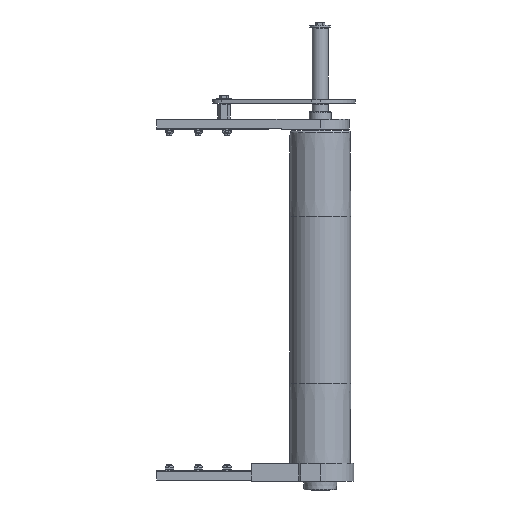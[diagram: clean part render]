
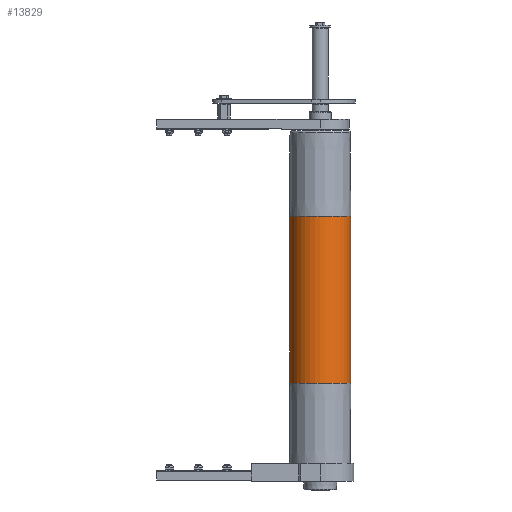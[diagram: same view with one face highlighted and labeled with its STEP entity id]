
A CAD part, front view. The second image highlights one B-rep face of the part: STEP entity #13829.
In plain terms, the highlighted cylindrical face has radius 47.5 mm (diameter 95 mm), a partial arc.
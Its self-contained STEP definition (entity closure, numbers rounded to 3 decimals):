
#1937 = DIRECTION ( 'NONE',  ( -1., 0., 0. ) ) ;
#2110 = DIRECTION ( 'NONE',  ( -1., 0., 0. ) ) ;
#4895 = ORIENTED_EDGE ( 'NONE', *, *, #28679, .F. ) ;
#6106 = EDGE_CURVE ( 'NONE', #13837, #14048, #7836, .T. ) ;
#6162 = EDGE_CURVE ( 'NONE', #13837, #29458, #15141, .T. ) ;
#6463 = CARTESIAN_POINT ( 'NONE',  ( 260., 0., 0. ) ) ;
#6680 = DIRECTION ( 'NONE',  ( 0., 0., 1. ) ) ;
#7836 = CIRCLE ( 'NONE', #25970, 47.5 ) ;
#8214 = EDGE_LOOP ( 'NONE', ( #4895, #28733, #23062, #29155 ) ) ;
#8860 = CARTESIAN_POINT ( 'NONE',  ( -130., 0., 47.5 ) ) ;
#9030 = DIRECTION ( 'NONE',  ( -1., 0., 0. ) ) ;
#11321 = CARTESIAN_POINT ( 'NONE',  ( 130., 0., 0. ) ) ;
#11481 = VECTOR ( 'NONE', #2110, 1000. ) ;
#12433 = CIRCLE ( 'NONE', #28171, 47.5 ) ;
#12960 = EDGE_CURVE ( 'NONE', #29458, #25253, #12433, .T. ) ;
#13019 = AXIS2_PLACEMENT_3D ( 'NONE', #6463, #9030, #6680 ) ;
#13034 = LINE ( 'NONE', #17125, #11481 ) ;
#13829 = ADVANCED_FACE ( 'NONE', ( #24393 ), #26719, .T. ) ;
#13837 = VERTEX_POINT ( 'NONE', #23637 ) ;
#14048 = VERTEX_POINT ( 'NONE', #27287 ) ;
#14371 = DIRECTION ( 'NONE',  ( 1., 0., 0. ) ) ;
#14580 = DIRECTION ( 'NONE',  ( 0., 0., -1. ) ) ;
#15141 = LINE ( 'NONE', #31889, #19788 ) ;
#16306 = DIRECTION ( 'NONE',  ( 1., 0., 0. ) ) ;
#17125 = CARTESIAN_POINT ( 'NONE',  ( 260., 0., -47.5 ) ) ;
#19788 = VECTOR ( 'NONE', #1937, 1000. ) ;
#21422 = DIRECTION ( 'NONE',  ( 0., 0., -1. ) ) ;
#22087 = CARTESIAN_POINT ( 'NONE',  ( -130., 0., 0. ) ) ;
#23062 = ORIENTED_EDGE ( 'NONE', *, *, #6162, .T. ) ;
#23637 = CARTESIAN_POINT ( 'NONE',  ( 130., 0., 47.5 ) ) ;
#24393 = FACE_OUTER_BOUND ( 'NONE', #8214, .T. ) ;
#25253 = VERTEX_POINT ( 'NONE', #29171 ) ;
#25970 = AXIS2_PLACEMENT_3D ( 'NONE', #11321, #16306, #21422 ) ;
#26719 = CYLINDRICAL_SURFACE ( 'NONE', #13019, 47.5 ) ;
#27287 = CARTESIAN_POINT ( 'NONE',  ( 130., 0., -47.5 ) ) ;
#28171 = AXIS2_PLACEMENT_3D ( 'NONE', #22087, #14371, #14580 ) ;
#28679 = EDGE_CURVE ( 'NONE', #14048, #25253, #13034, .T. ) ;
#28733 = ORIENTED_EDGE ( 'NONE', *, *, #6106, .F. ) ;
#29155 = ORIENTED_EDGE ( 'NONE', *, *, #12960, .T. ) ;
#29171 = CARTESIAN_POINT ( 'NONE',  ( -130., 0., -47.5 ) ) ;
#29458 = VERTEX_POINT ( 'NONE', #8860 ) ;
#31889 = CARTESIAN_POINT ( 'NONE',  ( 260., 0., 47.5 ) ) ;
